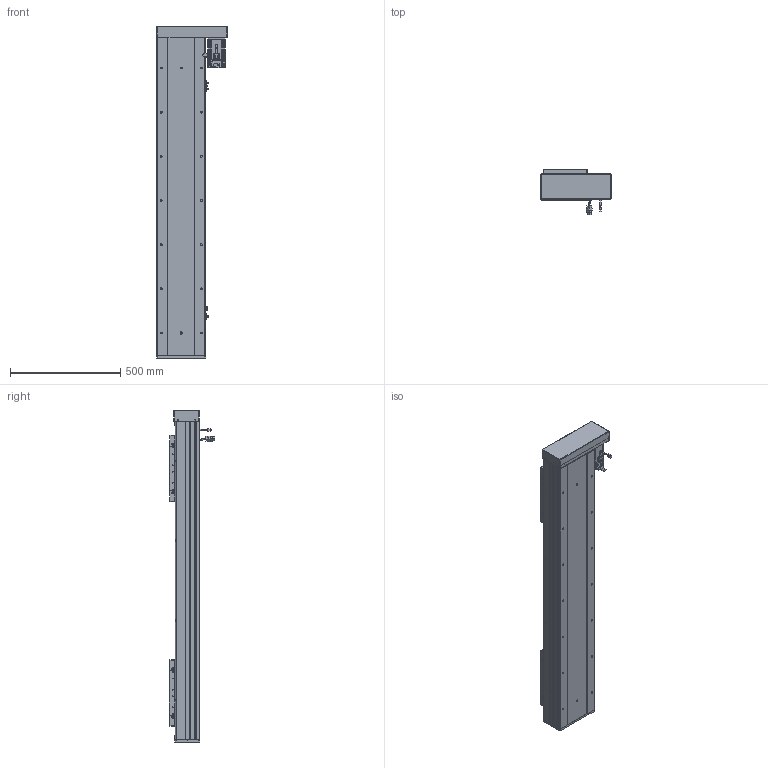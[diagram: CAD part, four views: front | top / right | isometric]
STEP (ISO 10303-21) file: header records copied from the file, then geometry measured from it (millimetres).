
FILE_DESCRIPTION (( 'STEP AP203' ), '1' );
FILE_NAME ('RY220F-L2525-800-RK-邧嶺.SLDASM_1000.step', '2022-08-06T08:19:04', ( '' ), ( '' ), 'SwSTEP 2.0', 'SolidWorks 2016', '' );
FILE_SCHEMA (( 'CONFIG_CONTROL_DESIGN' ));
Length unit declared in the file: millimetre
Products named in the file (15): RY220F-滅鳥奻裔; RY220F臏賑釱25-32佪裝; RY220F蛌殏菁釱-800-邧嶺_1000; RY220F-詩湍揤踡輸; 覜茼ん672; RY220F-L2525-800-RK-邧嶺.SLDASM_1000; RY220F綴裔啣; RY220F-672覜茼んえ; 怢湛750W_ECMA-CX0807ES; 侐源滅袉蝶; RY220酘衵殏萇儂欶; RY220左右折电机安装板; 滅袉蝶18-24; RY220F-蛌殏奻裔啣-800_1000; RY220F-祥凄詩湍-蛌殏-800_1000
Assembly tree (24 placements, depth 2):
  RY220F-L2525-800-RK-邧嶺.SLDASM_1000
    RY220F蛌殏菁釱-800-邧嶺_1000
    RY220F-蛌殏奻裔啣-800_1000  x2
    怢湛750W_ECMA-CX0807ES
    RY220F臏賑釱25-32佪裝  x2
    RY220F-滅鳥奻裔  x2
    滅袉蝶18-24  x3
    RY220F綴裔啣
    RY220F-祥凄詩湍-蛌殏-800_1000
    RY220F-詩湍揤踡輸  x2
    覜茼ん672  x3
    RY220F-672覜茼んえ  x2
    RY220左右折电机安装板
    RY220酘衵殏萇儂欶
    侐源滅袉蝶  x2
Bounding box: 317.5 x 205.27 x 1503 mm (x, y, z)
Volume: 14626289.2 mm3; surface area: 3826172.1 mm2
Topology: 25 solids, 25 shells, 2760 faces, 7508 edges, 4648 vertices
Faces by surface type: cylinder 1242, plane 1044, cone 403, bspline 45, sphere 16, torus 10
Entity records: 68436 total; most frequent: CARTESIAN_POINT 18605, ORIENTED_EDGE 10070, DIRECTION 9784, EDGE_CURVE 5035, AXIS2_PLACEMENT_3D 3478, VERTEX_POINT 3264, VECTOR 2828, LINE 2828
